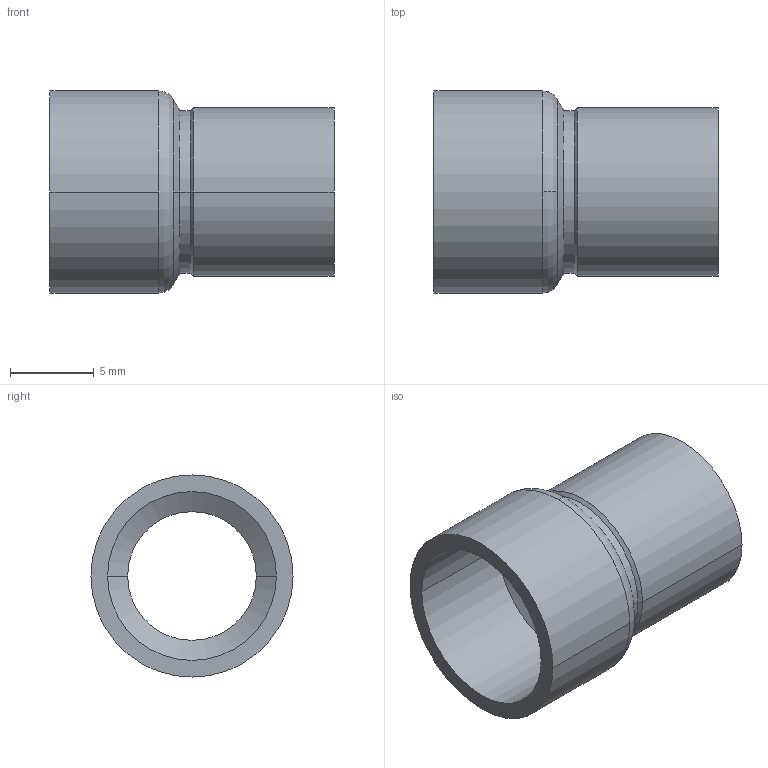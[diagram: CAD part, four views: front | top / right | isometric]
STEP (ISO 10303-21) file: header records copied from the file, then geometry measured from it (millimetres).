
FILE_DESCRIPTION((''),'2;1');
FILE_NAME('G:\Technics\CAD\Bauteile\Serie 15240\15240108.stp','2005-10-21T12:50:59',('boden'),(''),'Autodesk Inventor 8','Autodesk Inventor 8','');
FILE_SCHEMA(('AUTOMOTIVE_DESIGN { 1 0 10303 214 1 1 1 1 }'));
Length unit declared in the file: millimetre
Products named in the file (1): 15240108
Bounding box: 17 x 12.1 x 12.1 mm (x, y, z)
Volume: 550.7 mm3; surface area: 1164.6 mm2
Topology: 1 solids, 1 shells, 24 faces, 52 edges, 30 vertices
Faces by surface type: cylinder 12, cone 8, torus 2, plane 2
Entity records: 683 total; most frequent: DIRECTION 134, CARTESIAN_POINT 107, ORIENTED_EDGE 104, AXIS2_PLACEMENT_3D 57, EDGE_CURVE 52, CIRCLE 32, VERTEX_POINT 30, EDGE_LOOP 26
